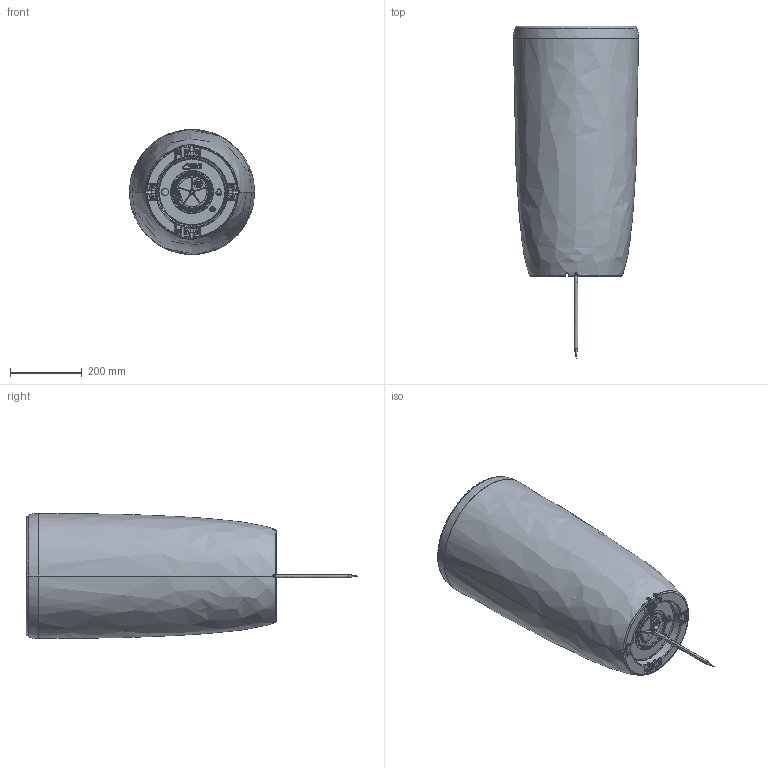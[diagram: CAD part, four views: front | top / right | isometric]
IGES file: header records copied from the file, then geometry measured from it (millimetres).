
Start section: SolidWorks IGES file using analytic representation for surfaces
Global section: file name: E:\....SOLID WORKS\...BORYS\BANKA 2\DONICA\1.12.2016\DONICA 02\flowerpot 2.IGS; native system: SolidWorks 2016; preprocessor: SolidWorks 2016; author: DELL; date: 170419.131509; units: millimetre
Bounding box: 350 x 928.49 x 349.68 mm (x, y, z)
Surface area: 2122805 mm2 (no closed solid volume)
Topology: 0 solids, 0 shells, 2686 faces, 27935 edges, 27896 vertices
Faces by surface type: bspline 1904, revolution 782
